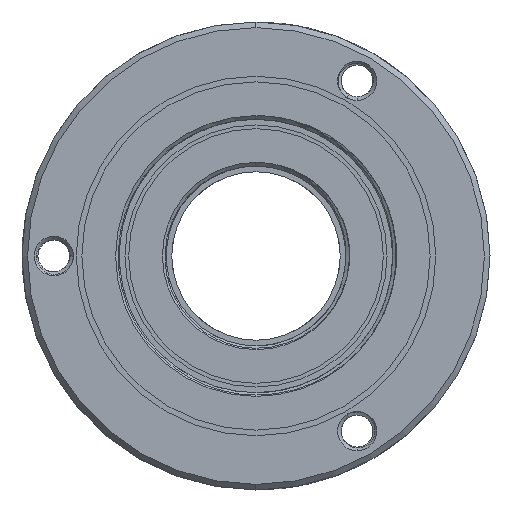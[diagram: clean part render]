
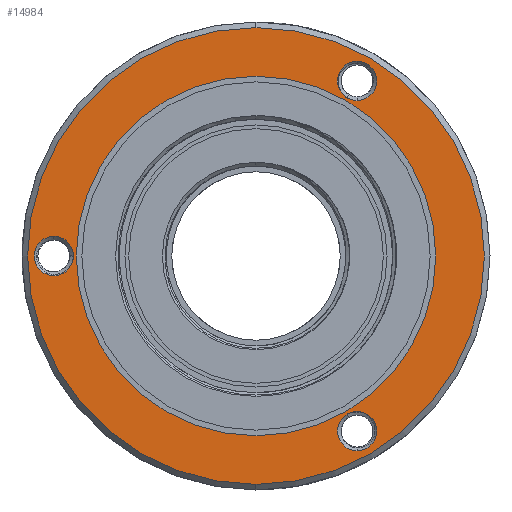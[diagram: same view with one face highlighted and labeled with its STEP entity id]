
A CAD part, left-side view. The second image highlights one B-rep face of the part: STEP entity #14984.
In plain terms, the highlighted planar face has unit normal (-1, 0, 0).
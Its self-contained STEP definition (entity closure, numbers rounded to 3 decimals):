
#218 = DIRECTION ( 'NONE',  ( 1., 0., 0. ) ) ;
#635 = EDGE_CURVE ( 'NONE', #21232, #22246, #18920, .T. ) ;
#2122 = VERTEX_POINT ( 'NONE', #8803 ) ;
#2236 = EDGE_CURVE ( 'NONE', #2332, #11954, #11459, .T. ) ;
#2332 = VERTEX_POINT ( 'NONE', #14978 ) ;
#3296 = CARTESIAN_POINT ( 'NONE',  ( 9., 0., 9.6 ) ) ;
#3435 = CIRCLE ( 'NONE', #19786, 9.6 ) ;
#3832 = CARTESIAN_POINT ( 'NONE',  ( 9., -5.4, -9.353 ) ) ;
#4233 = ORIENTED_EDGE ( 'NONE', *, *, #15303, .F. ) ;
#4384 = CARTESIAN_POINT ( 'NONE',  ( 9., 10.8, 0. ) ) ;
#4919 = DIRECTION ( 'NONE',  ( -1., 0., 0. ) ) ;
#4922 = EDGE_LOOP ( 'NONE', ( #18228, #15660 ) ) ;
#4957 = DIRECTION ( 'NONE',  ( -1., 0., 0. ) ) ;
#5037 = CIRCLE ( 'NONE', #15590, 1.05 ) ;
#5277 = FACE_OUTER_BOUND ( 'NONE', #8519, .T. ) ;
#5602 = DIRECTION ( 'NONE',  ( 0., 0., 1. ) ) ;
#6158 = DIRECTION ( 'NONE',  ( 0., 0., 1. ) ) ;
#6242 = AXIS2_PLACEMENT_3D ( 'NONE', #8235, #20209, #9979 ) ;
#6330 = ORIENTED_EDGE ( 'NONE', *, *, #17224, .F. ) ;
#7112 = EDGE_CURVE ( 'NONE', #10651, #10476, #7595, .T. ) ;
#7257 = DIRECTION ( 'NONE',  ( 0., 0., 1. ) ) ;
#7279 = DIRECTION ( 'NONE',  ( -1., 0., 0. ) ) ;
#7289 = CARTESIAN_POINT ( 'NONE',  ( 9., -5.4, -9.353 ) ) ;
#7333 = EDGE_CURVE ( 'NONE', #15575, #2122, #14135, .T. ) ;
#7595 = CIRCLE ( 'NONE', #20004, 12.2 ) ;
#7854 = AXIS2_PLACEMENT_3D ( 'NONE', #15435, #4957, #17130 ) ;
#8076 = CIRCLE ( 'NONE', #21158, 1.05 ) ;
#8235 = CARTESIAN_POINT ( 'NONE',  ( 9., 0., 0. ) ) ;
#8346 = DIRECTION ( 'NONE',  ( -1., 0., 0. ) ) ;
#8519 = EDGE_LOOP ( 'NONE', ( #8561, #6330 ) ) ;
#8561 = ORIENTED_EDGE ( 'NONE', *, *, #7112, .F. ) ;
#8691 = CARTESIAN_POINT ( 'NONE',  ( 9., -5.4, 9.353 ) ) ;
#8719 = EDGE_CURVE ( 'NONE', #11954, #2332, #8076, .T. ) ;
#8741 = DIRECTION ( 'NONE',  ( -1., 0., 0. ) ) ;
#8793 = DIRECTION ( 'NONE',  ( 0., 0., 1. ) ) ;
#8803 = CARTESIAN_POINT ( 'NONE',  ( 9., 10.8, 1.05 ) ) ;
#8996 = DIRECTION ( 'NONE',  ( 1., 0., 0. ) ) ;
#9179 = ORIENTED_EDGE ( 'NONE', *, *, #15356, .F. ) ;
#9246 = AXIS2_PLACEMENT_3D ( 'NONE', #9307, #21244, #11016 ) ;
#9307 = CARTESIAN_POINT ( 'NONE',  ( 9., 10.8, 0. ) ) ;
#9559 = CARTESIAN_POINT ( 'NONE',  ( 9., 0., -9.6 ) ) ;
#9938 = FACE_BOUND ( 'NONE', #11446, .T. ) ;
#9979 = DIRECTION ( 'NONE',  ( 0., 0., -1. ) ) ;
#10476 = VERTEX_POINT ( 'NONE', #10974 ) ;
#10604 = VERTEX_POINT ( 'NONE', #9559 ) ;
#10651 = VERTEX_POINT ( 'NONE', #16540 ) ;
#10775 = CARTESIAN_POINT ( 'NONE',  ( 9., 12.5, 0. ) ) ;
#10974 = CARTESIAN_POINT ( 'NONE',  ( 9., 0., 12.2 ) ) ;
#11016 = DIRECTION ( 'NONE',  ( 0., 0., 1. ) ) ;
#11239 = ORIENTED_EDGE ( 'NONE', *, *, #635, .F. ) ;
#11446 = EDGE_LOOP ( 'NONE', ( #9179, #4233 ) ) ;
#11459 = CIRCLE ( 'NONE', #16979, 1.05 ) ;
#11658 = CARTESIAN_POINT ( 'NONE',  ( 9., -5.4, 8.303 ) ) ;
#11954 = VERTEX_POINT ( 'NONE', #17737 ) ;
#12522 = DIRECTION ( 'NONE',  ( 0., 0., -1. ) ) ;
#13279 = VERTEX_POINT ( 'NONE', #3296 ) ;
#13970 = EDGE_CURVE ( 'NONE', #2122, #15575, #5037, .T. ) ;
#14135 = CIRCLE ( 'NONE', #9246, 1.05 ) ;
#14584 = FACE_BOUND ( 'NONE', #20016, .T. ) ;
#14782 = CARTESIAN_POINT ( 'NONE',  ( 9., -5.4, 10.403 ) ) ;
#14816 = EDGE_CURVE ( 'NONE', #22246, #21232, #15419, .T. ) ;
#14841 = CIRCLE ( 'NONE', #6242, 12.2 ) ;
#14978 = CARTESIAN_POINT ( 'NONE',  ( 9., -5.4, -10.403 ) ) ;
#14984 = ADVANCED_FACE ( 'NONE', ( #9938, #14584, #19051, #18522, #5277 ), #22306, .F. ) ;
#15001 = AXIS2_PLACEMENT_3D ( 'NONE', #15384, #4919, #17086 ) ;
#15113 = ORIENTED_EDGE ( 'NONE', *, *, #14816, .F. ) ;
#15303 = EDGE_CURVE ( 'NONE', #10604, #13279, #3435, .T. ) ;
#15356 = EDGE_CURVE ( 'NONE', #13279, #10604, #16317, .T. ) ;
#15384 = CARTESIAN_POINT ( 'NONE',  ( 9., -5.4, 9.353 ) ) ;
#15419 = CIRCLE ( 'NONE', #15001, 1.05 ) ;
#15435 = CARTESIAN_POINT ( 'NONE',  ( 9., 0., 0. ) ) ;
#15575 = VERTEX_POINT ( 'NONE', #18174 ) ;
#15590 = AXIS2_PLACEMENT_3D ( 'NONE', #4384, #16619, #6158 ) ;
#15595 = EDGE_LOOP ( 'NONE', ( #15113, #11239 ) ) ;
#15660 = ORIENTED_EDGE ( 'NONE', *, *, #2236, .F. ) ;
#16006 = ORIENTED_EDGE ( 'NONE', *, *, #13970, .F. ) ;
#16075 = DIRECTION ( 'NONE',  ( -1., 0., 0. ) ) ;
#16317 = CIRCLE ( 'NONE', #7854, 9.6 ) ;
#16540 = CARTESIAN_POINT ( 'NONE',  ( 9., 0., -12.2 ) ) ;
#16619 = DIRECTION ( 'NONE',  ( -1., 0., 0. ) ) ;
#16979 = AXIS2_PLACEMENT_3D ( 'NONE', #7289, #7279, #7257 ) ;
#17086 = DIRECTION ( 'NONE',  ( 0., 0., 1. ) ) ;
#17130 = DIRECTION ( 'NONE',  ( 0., 0., 1. ) ) ;
#17224 = EDGE_CURVE ( 'NONE', #10476, #10651, #14841, .T. ) ;
#17737 = CARTESIAN_POINT ( 'NONE',  ( 9., -5.4, -8.303 ) ) ;
#18174 = CARTESIAN_POINT ( 'NONE',  ( 9., 10.8, -1.05 ) ) ;
#18228 = ORIENTED_EDGE ( 'NONE', *, *, #8719, .F. ) ;
#18522 = FACE_BOUND ( 'NONE', #15595, .T. ) ;
#18639 = CARTESIAN_POINT ( 'NONE',  ( 9., 0., 0. ) ) ;
#18920 = CIRCLE ( 'NONE', #20082, 1.05 ) ;
#19051 = FACE_BOUND ( 'NONE', #4922, .T. ) ;
#19071 = AXIS2_PLACEMENT_3D ( 'NONE', #10775, #218, #12522 ) ;
#19269 = CARTESIAN_POINT ( 'NONE',  ( 9., 0., 0. ) ) ;
#19786 = AXIS2_PLACEMENT_3D ( 'NONE', #18639, #8346, #20316 ) ;
#20004 = AXIS2_PLACEMENT_3D ( 'NONE', #19269, #8996, #20963 ) ;
#20016 = EDGE_LOOP ( 'NONE', ( #16006, #20878 ) ) ;
#20082 = AXIS2_PLACEMENT_3D ( 'NONE', #8691, #8741, #8793 ) ;
#20209 = DIRECTION ( 'NONE',  ( 1., 0., 0. ) ) ;
#20316 = DIRECTION ( 'NONE',  ( 0., 0., 1. ) ) ;
#20878 = ORIENTED_EDGE ( 'NONE', *, *, #7333, .F. ) ;
#20963 = DIRECTION ( 'NONE',  ( 0., 0., -1. ) ) ;
#21158 = AXIS2_PLACEMENT_3D ( 'NONE', #3832, #16075, #5602 ) ;
#21232 = VERTEX_POINT ( 'NONE', #11658 ) ;
#21244 = DIRECTION ( 'NONE',  ( -1., 0., 0. ) ) ;
#22246 = VERTEX_POINT ( 'NONE', #14782 ) ;
#22306 = PLANE ( 'NONE',  #19071 ) ;
